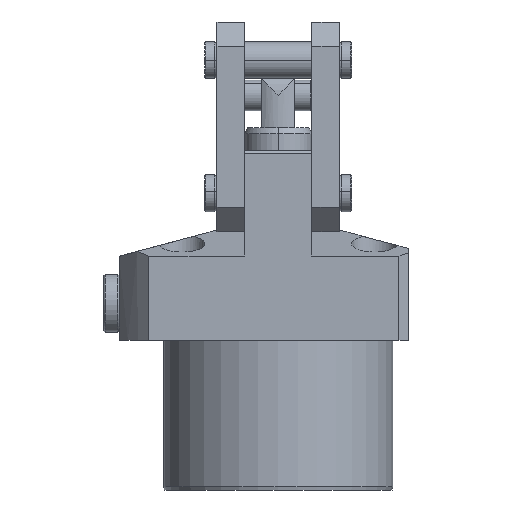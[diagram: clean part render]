
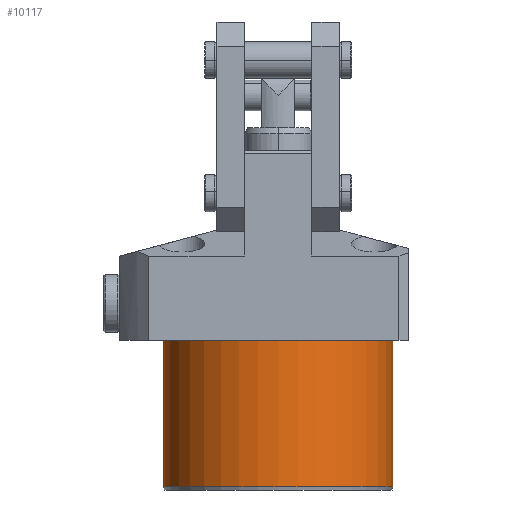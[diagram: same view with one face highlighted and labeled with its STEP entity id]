
A CAD part, front view. The second image highlights one B-rep face of the part: STEP entity #10117.
In plain terms, the highlighted cylindrical face has radius 37.5 mm (diameter 75 mm), a partial arc.
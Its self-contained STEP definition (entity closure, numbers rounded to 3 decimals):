
#121 = CARTESIAN_POINT ( 'NONE',  ( 37.5, 0., -49. ) ) ;
#668 = CYLINDRICAL_SURFACE ( 'NONE', #12826, 37.5 ) ;
#778 = DIRECTION ( 'NONE',  ( 0., 0., 1. ) ) ;
#802 = DIRECTION ( 'NONE',  ( 0., 0., -1. ) ) ;
#1256 = ORIENTED_EDGE ( 'NONE', *, *, #10384, .T. ) ;
#1402 = CIRCLE ( 'NONE', #15917, 37.5 ) ;
#1700 = VERTEX_POINT ( 'NONE', #7102 ) ;
#2825 = DIRECTION ( 'NONE',  ( 1., 0., 0. ) ) ;
#3482 = CARTESIAN_POINT ( 'NONE',  ( 37.5, 0., -48. ) ) ;
#3955 = VERTEX_POINT ( 'NONE', #5180 ) ;
#4151 = DIRECTION ( 'NONE',  ( 0., 0., 1. ) ) ;
#4999 = DIRECTION ( 'NONE',  ( 0., 0., 1. ) ) ;
#5180 = CARTESIAN_POINT ( 'NONE',  ( -37.5, 0., 0. ) ) ;
#5485 = DIRECTION ( 'NONE',  ( 0., 0., 1. ) ) ;
#5952 = LINE ( 'NONE', #16483, #12318 ) ;
#6584 = AXIS2_PLACEMENT_3D ( 'NONE', #8698, #778, #9960 ) ;
#6725 = CARTESIAN_POINT ( 'NONE',  ( 37.5, 0., 0. ) ) ;
#7102 = CARTESIAN_POINT ( 'NONE',  ( -37.5, 0., -48. ) ) ;
#8104 = FACE_OUTER_BOUND ( 'NONE', #9593, .T. ) ;
#8337 = LINE ( 'NONE', #121, #14554 ) ;
#8698 = CARTESIAN_POINT ( 'NONE',  ( 0., 0., -48. ) ) ;
#8721 = CARTESIAN_POINT ( 'NONE',  ( 0., 0., 0. ) ) ;
#8964 = EDGE_CURVE ( 'NONE', #14578, #10918, #8337, .T. ) ;
#9593 = EDGE_LOOP ( 'NONE', ( #11441, #1256, #15345, #12020 ) ) ;
#9960 = DIRECTION ( 'NONE',  ( -1., 0., 0. ) ) ;
#9979 = DIRECTION ( 'NONE',  ( 1., 0., 0. ) ) ;
#10117 = ADVANCED_FACE ( 'NONE', ( #8104 ), #668, .T. ) ;
#10384 = EDGE_CURVE ( 'NONE', #1700, #14578, #11635, .T. ) ;
#10918 = VERTEX_POINT ( 'NONE', #6725 ) ;
#11441 = ORIENTED_EDGE ( 'NONE', *, *, #14127, .F. ) ;
#11635 = CIRCLE ( 'NONE', #6584, 37.5 ) ;
#11859 = CARTESIAN_POINT ( 'NONE',  ( 0., 0., -49. ) ) ;
#12020 = ORIENTED_EDGE ( 'NONE', *, *, #13827, .T. ) ;
#12318 = VECTOR ( 'NONE', #4999, 1000. ) ;
#12826 = AXIS2_PLACEMENT_3D ( 'NONE', #11859, #4151, #2825 ) ;
#13827 = EDGE_CURVE ( 'NONE', #10918, #3955, #1402, .T. ) ;
#14127 = EDGE_CURVE ( 'NONE', #1700, #3955, #5952, .T. ) ;
#14554 = VECTOR ( 'NONE', #5485, 1000. ) ;
#14578 = VERTEX_POINT ( 'NONE', #3482 ) ;
#15345 = ORIENTED_EDGE ( 'NONE', *, *, #8964, .T. ) ;
#15917 = AXIS2_PLACEMENT_3D ( 'NONE', #8721, #802, #9979 ) ;
#16483 = CARTESIAN_POINT ( 'NONE',  ( -37.5, 0., -49. ) ) ;
